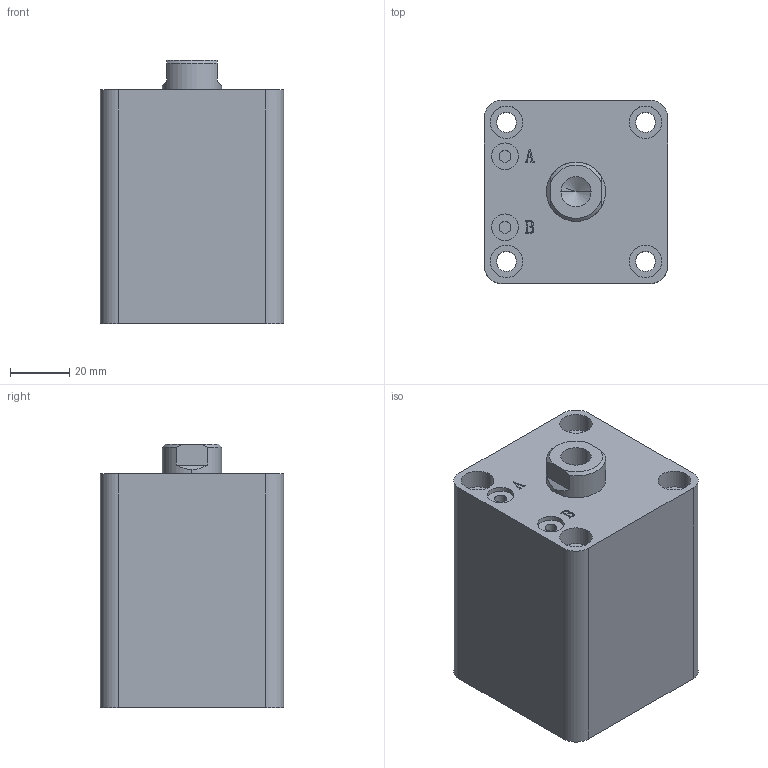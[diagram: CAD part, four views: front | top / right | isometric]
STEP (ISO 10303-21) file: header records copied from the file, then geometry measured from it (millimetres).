
FILE_DESCRIPTION (( 'STEP AP203' ), '1' );
FILE_NAME ('HTB-SDMA32-25N.STEP', '2019-10-07T11:39:14', ( '微软用户' ), ( '微软中国' ), 'SwSTEP 2.0', 'SolidWorks 2012', '' );
FILE_SCHEMA (( 'CONFIG_CONTROL_DESIGN' ));
Length unit declared in the file: millimetre
Products named in the file (3): HTB-SDMA32-25N; HTB-SDMA32-25N活塞杆; HTB-SDMA32-25掛极
Assembly tree (2 placements, depth 2):
  HTB-SDMA32-25N
    HTB-SDMA32-25掛极
    HTB-SDMA32-25N活塞杆
Bounding box: 62 x 62 x 89 mm (x, y, z)
Volume: 275463 mm3; surface area: 48604.4 mm2
Topology: 2 solids, 2 shells, 137 faces, 331 edges, 217 vertices
Faces by surface type: plane 65, cylinder 46, bspline 16, torus 6, cone 4
Entity records: 5070 total; most frequent: CARTESIAN_POINT 1576, ORIENTED_EDGE 658, DIRECTION 647, EDGE_CURVE 329, AXIS2_PLACEMENT_3D 232, VERTEX_POINT 217, LINE 183, VECTOR 183
